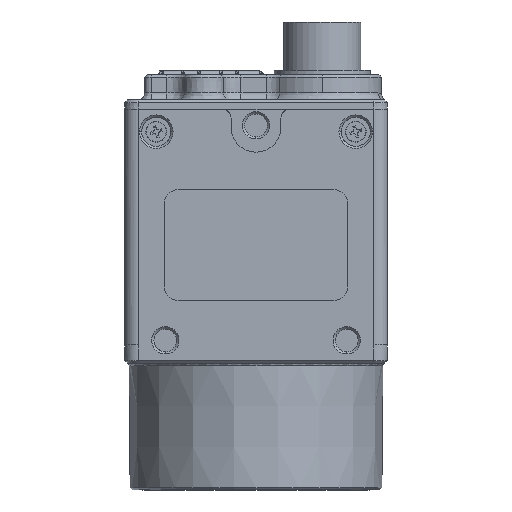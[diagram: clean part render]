
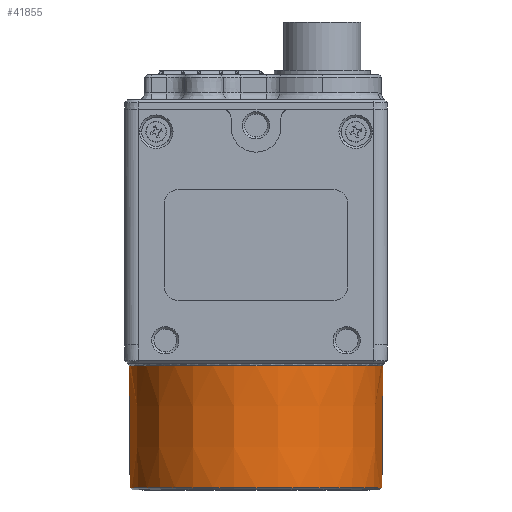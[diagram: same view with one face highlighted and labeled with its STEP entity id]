
A CAD part, front view. The second image highlights one B-rep face of the part: STEP entity #41855.
In plain terms, the highlighted conical face has half-angle 0.5 degrees and reference radius 13.997 mm.
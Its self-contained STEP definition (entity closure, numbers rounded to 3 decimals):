
#486 = LINE ( 'NONE', #56542, #48728 ) ;
#3273 = CARTESIAN_POINT ( 'NONE',  ( -63.283, 12.502, -19.85 ) ) ;
#3747 = EDGE_LOOP ( 'NONE', ( #34037, #64900, #59455, #37230 ) ) ;
#4761 = EDGE_CURVE ( 'NONE', #13017, #20116, #486, .T. ) ;
#8340 = CARTESIAN_POINT ( 'NONE',  ( -77.163, 12.502, -19.85 ) ) ;
#8649 = CARTESIAN_POINT ( 'NONE',  ( -63.283, 12.502, -6.397 ) ) ;
#9546 = DIRECTION ( 'NONE',  ( 0., -1., 0. ) ) ;
#12967 = CARTESIAN_POINT ( 'NONE',  ( -49.403, 12.502, -19.85 ) ) ;
#13017 = VERTEX_POINT ( 'NONE', #12967 ) ;
#15028 = DIRECTION ( 'NONE',  ( 0., -1., 0. ) ) ;
#20116 = VERTEX_POINT ( 'NONE', #62255 ) ;
#22404 = VERTEX_POINT ( 'NONE', #8340 ) ;
#23677 = CONICAL_SURFACE ( 'NONE', #51135, 13.997, 0.009 ) ;
#26043 = DIRECTION ( 'NONE',  ( 1., 0., 0. ) ) ;
#27213 = AXIS2_PLACEMENT_3D ( 'NONE', #3273, #47284, #9546 ) ;
#31489 = DIRECTION ( 'NONE',  ( 0.009, 0., 1. ) ) ;
#34037 = ORIENTED_EDGE ( 'NONE', *, *, #60147, .F. ) ;
#37230 = ORIENTED_EDGE ( 'NONE', *, *, #50722, .T. ) ;
#38724 = DIRECTION ( 'NONE',  ( 0., 0., 1. ) ) ;
#39410 = AXIS2_PLACEMENT_3D ( 'NONE', #8649, #52675, #15028 ) ;
#41855 = ADVANCED_FACE ( 'NONE', ( #75831 ), #23677, .T. ) ;
#47284 = DIRECTION ( 'NONE',  ( 0., 0., 1. ) ) ;
#48728 = VECTOR ( 'NONE', #31489, 1000. ) ;
#48967 = LINE ( 'NONE', #50155, #61012 ) ;
#50155 = CARTESIAN_POINT ( 'NONE',  ( -77.281, 12.502, -6.397 ) ) ;
#50722 = EDGE_CURVE ( 'NONE', #20116, #78638, #64891, .T. ) ;
#50935 = CIRCLE ( 'NONE', #27213, 13.88 ) ;
#51135 = AXIS2_PLACEMENT_3D ( 'NONE', #63737, #38724, #26043 ) ;
#52675 = DIRECTION ( 'NONE',  ( 0., 0., -1. ) ) ;
#56542 = CARTESIAN_POINT ( 'NONE',  ( -49.286, 12.502, -6.397 ) ) ;
#59226 = EDGE_CURVE ( 'NONE', #22404, #13017, #50935, .T. ) ;
#59455 = ORIENTED_EDGE ( 'NONE', *, *, #4761, .T. ) ;
#60147 = EDGE_CURVE ( 'NONE', #22404, #78638, #48967, .T. ) ;
#61012 = VECTOR ( 'NONE', #81460, 1000. ) ;
#62255 = CARTESIAN_POINT ( 'NONE',  ( -49.286, 12.502, -6.397 ) ) ;
#62953 = CARTESIAN_POINT ( 'NONE',  ( -77.281, 12.502, -6.397 ) ) ;
#63737 = CARTESIAN_POINT ( 'NONE',  ( -63.283, 12.502, -6.397 ) ) ;
#64891 = CIRCLE ( 'NONE', #39410, 13.997 ) ;
#64900 = ORIENTED_EDGE ( 'NONE', *, *, #59226, .T. ) ;
#75831 = FACE_OUTER_BOUND ( 'NONE', #3747, .T. ) ;
#78638 = VERTEX_POINT ( 'NONE', #62953 ) ;
#81460 = DIRECTION ( 'NONE',  ( -0.009, 0., 1. ) ) ;
